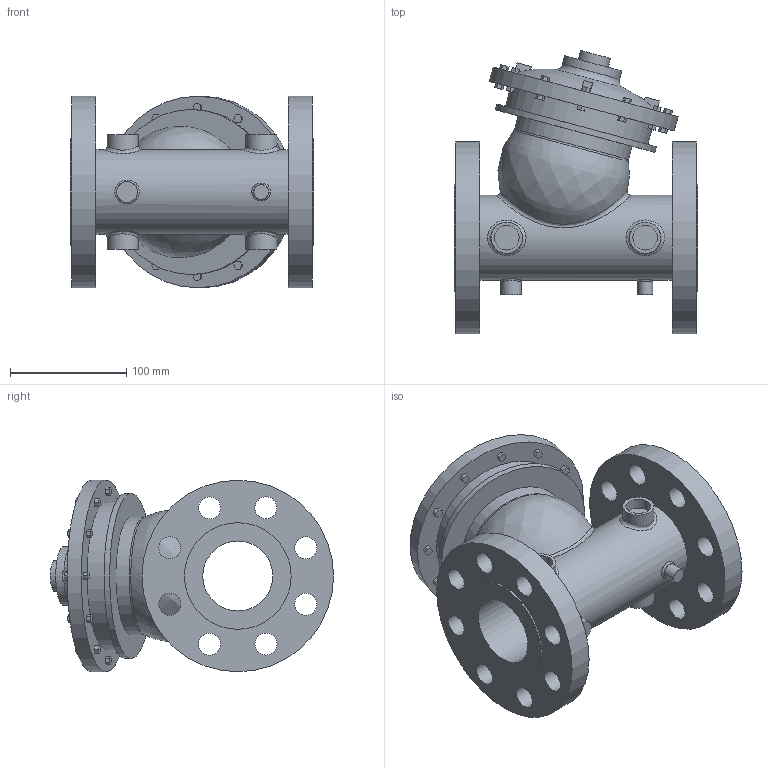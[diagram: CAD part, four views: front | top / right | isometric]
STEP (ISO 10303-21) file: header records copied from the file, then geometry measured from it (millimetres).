
FILE_DESCRIPTION(/* description */ ('VIC FP VALVE PRESSURE RELIEF SERIES 867-7UF (FLG 300)','CAx-IF Rec.Pracs.---Representation and Presentation of Product Manufacturing Information (PMI)---4.0---2014-10-13'),/* implementation_level */ '2;1');
FILE_NAME(/* name */ 'C:\Series 867-7UF\Series 867-7UF final\Victaulic_FP-Bermad_Valve Pressure Relief_Series 867-7UF (FLG 300)\Victaulic_FP-Bermad_Valve Pressure Relief_Series 867-7UF (FLG 300)_2 (50).stp',/* time_stamp */ '2021-09-02T16:53:00+05:00',/* author */ ('kkamble'),/* organization */ ('Victaulic'),/* preprocessor_version */ 'ST-DEVELOPER v17.2',/* originating_system */ 'Autodesk Inventor 2019',/* authorisation */ '');
FILE_SCHEMA (('AP242_MANAGED_MODEL_BASED_3D_ENGINEERING_MIM_LF { 1 0 10303 442 1 1 4 }'));
Length unit declared in the file: inch
Products named in the file (1): 867-7UF-02.0
Bounding box: 210.06 x 244 x 165.1 mm (x, y, z)
Volume: 2222968.7 mm3; surface area: 271096.8 mm2
Topology: 1 solids, 1 shells, 264 faces, 674 edges, 457 vertices
Faces by surface type: plane 214, cylinder 39, bspline 9, torus 2
Full cylindrical faces by diameter (mm): 12.7 x1, 17.78 x1, 19.05 x16, 21.336 x4, 26.67 x1, 26.873 x4, 50.8 x1, 60.325 x1, 73.025 x1, 91.948 x2, 101.6 x1, 127 x1, 142.24 x1, 165.1 x3
Entity records: 9508 total; most frequent: CARTESIAN_POINT 2562, ORIENTED_EDGE 1360, DIRECTION 1293, EDGE_CURVE 680, LINE 523, VECTOR 523, VERTEX_POINT 463, AXIS2_PLACEMENT_3D 385
